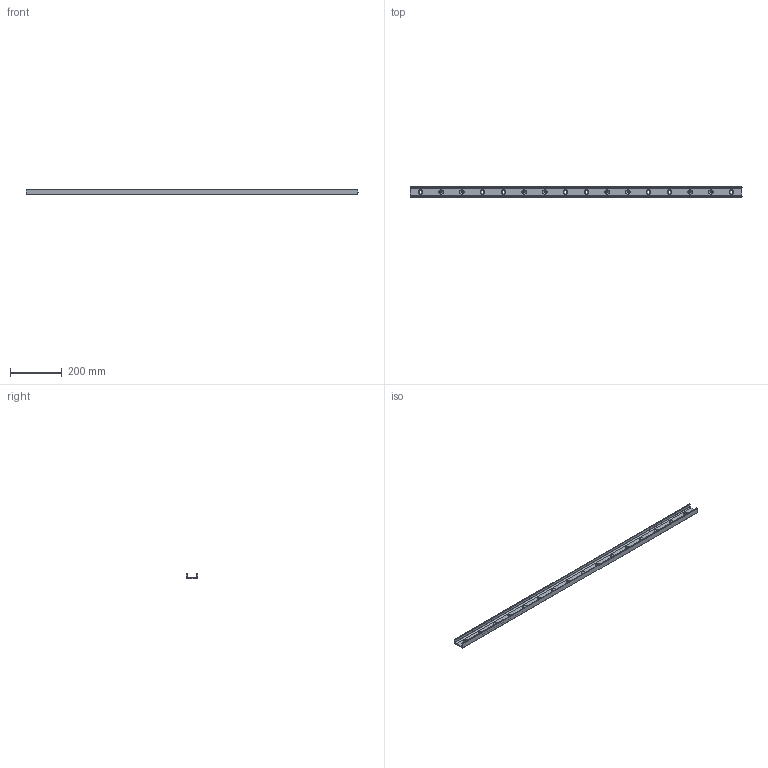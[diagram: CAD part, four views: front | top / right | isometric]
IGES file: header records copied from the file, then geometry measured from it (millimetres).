
Start section: SolidWorks IGES file using analytic representation for surfaces
Global section: file name: C:\Users\IanO\Desktop\43\L1943.ULV43_v2_20180121_IGES\L1943.ULV43-1280.igs; native system: SolidWorks 2017; preprocessor: SolidWorks 2017; author: IanO; date: 190121.090038; units: millimetre
Bounding box: 1280 x 43 x 21 mm (x, y, z)
Surface area: 198970.4 mm2 (no closed solid volume)
Topology: 0 solids, 0 shells, 90 faces, 1574 edges, 1574 vertices
Faces by surface type: revolution 77, bspline 13
